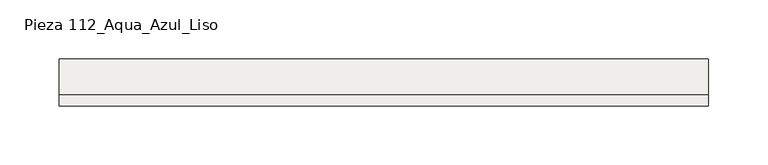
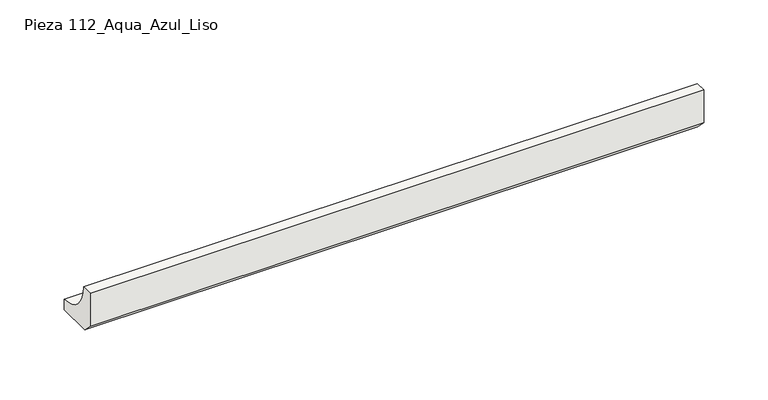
"""IFC4 building model written with IfcOpenShell, lengths in millimetres: slab geometry, ROSA GRES_112 : Pieza 112_Aqua_Azul_Liso."""

from ifc_helpers import new_model, si_unit, point, frame, frame_2d, origin, place, context, project, spatial, polyline, circle_curve, trimmed, segment, composite_curve, outline, extrude, source, transform, mapped, element, save


def pieza_112_aqua_azul_liso_fe8c457d(model_context):
    return source(origin(), model_context, "Body", "SweptSolid", [
        extrude(outline(composite_curve([segment(polyline([(0.0, 8.7114978), (0.0, 40.0), (9.9734114, 40.0)]), True, "CONTINUOUS"), segment(trimmed(circle_curve(frame_2d((39.9955547, 39.9955547)), 30.0221435), [point((9.9734114, 40.0))], [point((40.0, 9.9734114))], True, "CARTESIAN"), True, "CONTINUOUS"), segment(polyline([(40.0, 9.9734114), (40.0, 0.0), (8.7114978, 0.0), (0.0, 8.7114978)]), True, "CONTINUOUS")], self_intersect=False)), frame((0.0, 0.0, 0.0), z_axis=(1.0, 0.0, 0.0), x_axis=(0.0, 1.0, 0.0)), (0.0, 0.0, 1.0), 550.0),
    ])


if __name__ == "__main__":
    model = new_model("IFC4")
    model_context = context("Model", 3, world=origin())
    ifc_project = project(units=[si_unit("LENGTHUNIT", "METRE", prefix="MILLI")], contexts=[model_context])
    site = spatial("IfcSite", under=ifc_project)
    building = spatial("IfcBuilding", under=site)
    placement = place(None, origin())
    pieza_112_aqua_azul_liso_shape = pieza_112_aqua_azul_liso_fe8c457d(model_context)
    element("IfcSlab", 1, ObjectType="ROSA GRES_112 : Pieza 112_Aqua_Azul_Liso", at=placement, inside=building, context=model_context, shape_type="MappedRepresentation", body=[
        mapped(pieza_112_aqua_azul_liso_shape, transform((0.0, 0.0, 0.0), x_axis=(1.0, 0.0, 0.0), y_axis=(0.0, 1.0, 0.0), z_axis=(0.0, 0.0, 1.0))),
    ])
    save(model, "model.ifc")
